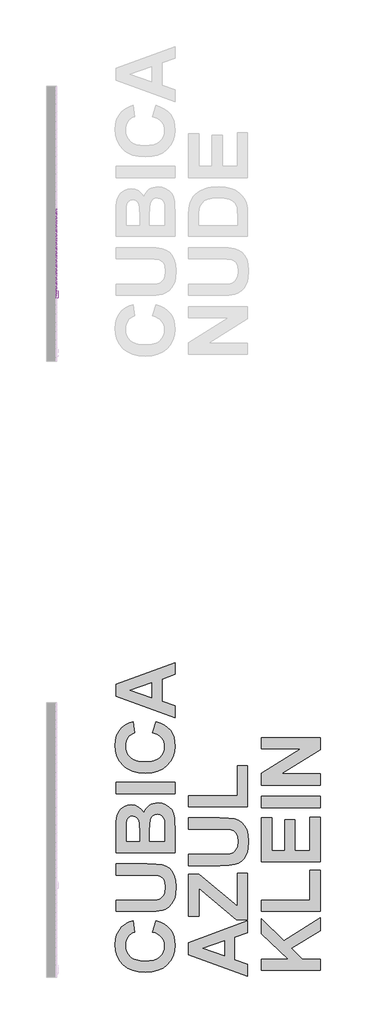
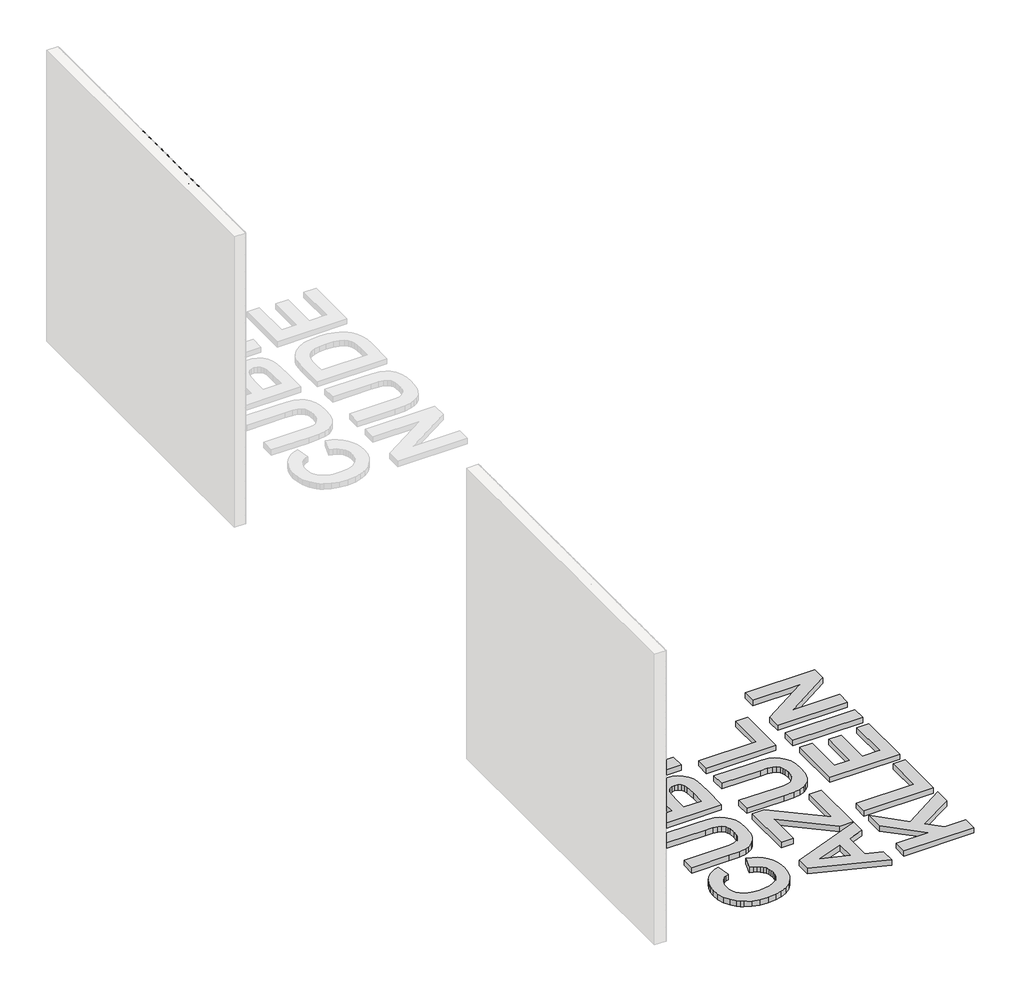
# One storey, part 62 of 121: 12 proxies.
"""IFC4 building model written with IfcOpenShell, lengths in millimetres."""

import ifcopenshell
import ifcopenshell.guid

model = None  # the IFC model being written
_history = None  # IfcOwnerHistory: only IFC2X3 demands one
_inside = {}  # id of a spatial element -> (the spatial element, [elements in it])
_under = {}  # id of a project, library or spatial element -> (it, [spatial elements below it])
_declared = {}  # id of a project -> (the project, [libraries it declares])
_typed = {}  # id of a type object -> (the type object, [elements of that type])
_made_of = {}  # id of a material, layer set ... -> (it, [elements and type objects made of it])


def new_model(schema):
    """Start an empty IFC model of exactly this schema.

    Asked for "IFC4X3", IfcOpenShell would pick the latest addendum, in which some entities
    have other attributes; the version numbers below select the first issue.
    IFC2X3 requires an IfcOwnerHistory on every rooted entity: one is made here for all.
    """
    global model, _history
    if schema == "IFC4X3":
        model = ifcopenshell.file(schema_version=(4, 3, 0, 0))
    else:
        model = ifcopenshell.file(schema=schema)
    _inside.clear()
    _under.clear()
    _declared.clear()
    _typed.clear()
    _made_of.clear()
    _history = None
    if model.schema == "IFC2X3":
        org = make("IfcOrganization", Name="unknown")
        user = make(
            "IfcPersonAndOrganization",
            ThePerson=make("IfcPerson", FamilyName="unknown"),
            TheOrganization=org,
        )
        app = make(
            "IfcApplication",
            ApplicationDeveloper=org,
            Version="unknown",
            ApplicationFullName="unknown",
            ApplicationIdentifier="unknown",
        )
        _history = make(
            "IfcOwnerHistory",
            OwningUser=user,
            OwningApplication=app,
            ChangeAction="ADDED",
            CreationDate=0,
        )
    return model


def make(cls, **values):
    """One entity of the class cls with the attributes given. An attribute that is None is left unset."""
    return model.create_entity(
        cls, **{name: value for name, value in values.items() if value is not None}
    )


def rooted(cls, **values):
    """An entity with a GlobalId (a new one), such as an element, a storey or a relation."""
    return make(cls, GlobalId=ifcopenshell.guid.new(), OwnerHistory=_history, **values)


def si_unit(unit_type, name, prefix=None):
    """IfcSIUnit, for example si_unit("LENGTHUNIT", "METRE", prefix="MILLI")."""
    return make("IfcSIUnit", UnitType=unit_type, Prefix=prefix, Name=name)


def assignment(units):
    """IfcUnitAssignment: the units of a project."""
    return None if units is None else make("IfcUnitAssignment", Units=units)


def point(xyz):
    """IfcCartesianPoint."""
    return None if xyz is None else make("IfcCartesianPoint", Coordinates=xyz)


def direction(xyz):
    """IfcDirection."""
    return None if xyz is None else make("IfcDirection", DirectionRatios=xyz)


def frame(location, z_axis=None, x_axis=None):
    """IfcAxis2Placement3D, a coordinate frame: its origin and axes. An axis left out is left unset."""
    return make(
        "IfcAxis2Placement3D",
        Location=point(location),
        Axis=direction(z_axis),
        RefDirection=direction(x_axis),
    )


def origin():
    """The frame at (0, 0, 0) with its axes left unset."""
    return frame((0.0, 0.0, 0.0))


def origin_with_axes():
    """The frame at (0, 0, 0) with the z axis (0, 0, 1) and the x axis (1, 0, 0) written out."""
    return frame((0.0, 0.0, 0.0), z_axis=(0.0, 0.0, 1.0), x_axis=(1.0, 0.0, 0.0))


def place(relative_to, where):
    """IfcLocalPlacement: puts the frame where relative to a parent placement (None: the world)."""
    return make(
        "IfcLocalPlacement", PlacementRelTo=relative_to, RelativePlacement=where
    )


def context(
    kind, dimensions, precision=None, world=None, true_north=None, identifier=None
):
    """IfcGeometricRepresentationContext, for example the 3D "Model" context."""
    return make(
        "IfcGeometricRepresentationContext",
        ContextIdentifier=identifier,
        ContextType=kind,
        CoordinateSpaceDimension=dimensions,
        Precision=precision,
        WorldCoordinateSystem=world,
        TrueNorth=true_north,
    )


def project(units=None, contexts=None):
    """IfcProject with its units and contexts."""
    return rooted(
        "IfcProject",
        Name="project",
        RepresentationContexts=contexts,
        UnitsInContext=assignment(units),
    )


def spatial(cls, under=None, at=None, **own):
    """A site, building, storey or space (cls), placed at a placement, below another one or the project."""
    s = rooted(cls, ObjectPlacement=at, **own)
    if under is not None:
        _under.setdefault(under.id(), (under, []))[1].append(s)
    return s


def polyline(points):
    """IfcPolyline through the points."""
    return make("IfcPolyline", Points=[point(p) for p in points])


def outline(outer, holes=None, kind="AREA"):
    """IfcArbitraryClosedProfileDef: a profile drawn as a closed curve; with holes, ...WithVoids."""
    if holes is None:
        return make("IfcArbitraryClosedProfileDef", ProfileType=kind, OuterCurve=outer)
    return make(
        "IfcArbitraryProfileDefWithVoids",
        ProfileType=kind,
        OuterCurve=outer,
        InnerCurves=holes,
    )


def extrude(swept, where, along, depth):
    """IfcExtrudedAreaSolid: the profile swept, set in the frame where, extruded along a direction by depth."""
    return make(
        "IfcExtrudedAreaSolid",
        SweptArea=swept,
        Position=where,
        ExtrudedDirection=direction(along),
        Depth=depth,
    )


def shape(context_of_items, identifier, shape_type, items):
    """IfcShapeRepresentation: the items that make up one representation, for example the "Body"."""
    return make(
        "IfcShapeRepresentation",
        ContextOfItems=context_of_items,
        RepresentationIdentifier=identifier,
        RepresentationType=shape_type,
        Items=items,
    )


def source(mapping_origin, context_of_items, identifier, shape_type, items):
    """IfcRepresentationMap: a shape defined once, which mapped items show again and again."""
    return make(
        "IfcRepresentationMap",
        MappingOrigin=mapping_origin,
        MappedRepresentation=shape(context_of_items, identifier, shape_type, items),
    )


def transform(
    local_origin,
    x_axis=None,
    y_axis=None,
    z_axis=None,
    scale=None,
    scale2=None,
    scale3=None,
    uniform=True,
):
    """IfcCartesianTransformationOperator3D, or its non-uniform kind. x_axis, y_axis, z_axis: its Axis1, 2, 3."""
    if uniform:
        return make(
            "IfcCartesianTransformationOperator3D",
            Axis1=direction(x_axis),
            Axis2=direction(y_axis),
            LocalOrigin=point(local_origin),
            Scale=scale,
            Axis3=direction(z_axis),
        )
    return make(
        "IfcCartesianTransformationOperator3DnonUniform",
        Axis1=direction(x_axis),
        Axis2=direction(y_axis),
        LocalOrigin=point(local_origin),
        Scale=scale,
        Axis3=direction(z_axis),
        Scale2=scale2,
        Scale3=scale3,
    )


def mapped(mapping_source, mapping_target):
    """IfcMappedItem: shows the shape of a source again, moved by a transform."""
    return make(
        "IfcMappedItem", MappingSource=mapping_source, MappingTarget=mapping_target
    )


def made_of(thing, what):
    """Note that an element or type object is made of a material, layer set ...; save() writes the relation."""
    if what is not None:
        _made_of.setdefault(what.id(), (what, []))[1].append(thing)
    return thing


def element(
    cls,
    number,
    at=None,
    inside=None,
    cuts=None,
    type_object=None,
    material=None,
    context=None,
    identifier="Body",
    shape_type=None,
    held_by="IfcProductDefinitionShape",
    body=None,
    shapes=None,
    **own,
):
    """One element of the class cls, such as IfcWall. Its Tag is "e" and its number.

    at: its placement. inside: the storey or other place that contains it. cuts: it is an
    opening in that element (IfcRelVoidsElement). A single representation is given by context,
    identifier, shape_type and body (its items); several are given by shapes. held_by: the class
    of the entity that holds the representations. save() writes the other relations.
    """
    e = rooted(cls, Tag="e%d" % number, ObjectPlacement=at, **own)
    if body is not None:
        shapes = [shape(context, identifier, shape_type, body)]
    if shapes is not None:
        e.Representation = make(held_by, Representations=shapes)
    if inside is not None:
        _inside.setdefault(inside.id(), (inside, []))[1].append(e)
    if cuts is not None:
        rooted(
            "IfcRelVoidsElement", RelatingBuildingElement=cuts, RelatedOpeningElement=e
        )
    if type_object is not None:
        _typed.setdefault(type_object.id(), (type_object, []))[1].append(e)
    return made_of(e, material)


def aggregate(whole, parts):
    """IfcRelAggregates: a whole, such as a stair, and the parts it consists of."""
    return rooted("IfcRelAggregates", RelatingObject=whole, RelatedObjects=parts)


def save(model, path):
    """Write the relations noted so far, then the file.

    IfcRelAggregates (storeys below a building ...), IfcRelContainedInSpatialStructure (elements
    in a storey), IfcRelDefinesByType, IfcRelAssociatesMaterial and IfcRelDeclares: one each for
    every whole, place, type object, material and project.
    """
    for whole, parts in _under.values():
        aggregate(whole, parts)
    for where, things in _inside.values():
        rooted(
            "IfcRelContainedInSpatialStructure",
            RelatedElements=things,
            RelatingStructure=where,
        )
    for kind, things in _typed.values():
        rooted("IfcRelDefinesByType", RelatedObjects=things, RelatingType=kind)
    for what, things in _made_of.values():
        rooted("IfcRelAssociatesMaterial", RelatedObjects=things, RelatingMaterial=what)
    for by, libraries in _declared.values():
        rooted("IfcRelDeclares", RelatingContext=by, RelatedDefinitions=libraries)
    model.write(path)


def generic_models_b652511d(model_context):
    return source(origin(), model_context, "Body", "SweptSolid", [
        extrude(outline(polyline([(45.5692194, 0.0), (0.0, -26.3094011), (-45.5692194, 0.0), (-17.3205081, 16.3094011), (17.3205081, 16.3094011), (45.5692194, 0.0)])), origin_with_axes(), (0.0, 0.0, 1.0), 2.0),
        extrude(outline(polyline([(41.5692194, 0.0), (0.0, -24.0), (-41.5692194, 0.0), (-13.3205081, 16.3094011), (13.3205081, 16.3094011), (41.5692194, 0.0)])), frame((0.0, 0.0, 2.0), z_axis=(0.0, 0.0, 1.0), x_axis=(1.0, 0.0, 0.0)), (0.0, 0.0, 1.0), 2.5),
    ])


model = new_model("IFC4")

# Units and contexts
model_context = context("Model", 3, world=origin())
ifc_project = project(units=[si_unit("LENGTHUNIT", "METRE", prefix="MILLI")], contexts=[model_context])

# Site, building, storey
site = spatial("IfcSite", under=ifc_project)
building = spatial("IfcBuilding", under=site)
storey = spatial("IfcBuildingStorey", under=building, Name="PORTOBELLO - SHOWROOM", Elevation=0.0)

# Proxies
placement = place(None, origin())
generic_models_shape = generic_models_b652511d(model_context)
element("IfcBuildingElementProxy", 1, Name="PBSHOP - CUBICA NUDE 4,8X8,3 : CUBICA NUDE - POSIÇÃO 03", ObjectType="PBSHOP - CUBICA NUDE 4,8X8,3 : CUBICA NUDE - POSIÇÃO 03", at=placement, inside=storey, context=model_context, shape_type="MappedRepresentation", body=[
    mapped(generic_models_shape, transform((150369.5341846, 7100.5542414, 2683.6913419), x_axis=(0.0, 1.0, 0.0), y_axis=(0.0, 0.0, 1.0), z_axis=(1.0, 0.0, 0.0))),
])
element("IfcBuildingElementProxy", 2, Name="PBSHOP - CUBICA NUDE 4,8X8,3 : CUBICA NUDE - POSIÇÃO 03", ObjectType="PBSHOP - CUBICA NUDE 4,8X8,3 : CUBICA NUDE - POSIÇÃO 03", at=placement, inside=storey, context=model_context, shape_type="MappedRepresentation", body=[
    mapped(generic_models_shape, transform((150369.5341846, 7191.3935106, 2683.6913419), x_axis=(0.0, 1.0, 0.0), y_axis=(0.0, 0.0, 1.0), z_axis=(1.0, 0.0, 0.0))),
])
element("IfcBuildingElementProxy", 3, Name="PBSHOP - CUBICA NUDE 4,8X8,3 : CUBICA NUDE - POSIÇÃO 03", ObjectType="PBSHOP - CUBICA NUDE 4,8X8,3 : CUBICA NUDE - POSIÇÃO 03", at=placement, inside=storey, context=model_context, shape_type="MappedRepresentation", body=[
    mapped(generic_models_shape, transform((150369.5341846, 7282.2327799, 2683.6913419), x_axis=(0.0, 1.0, 0.0), y_axis=(0.0, 0.0, 1.0), z_axis=(1.0, 0.0, 0.0))),
])
element("IfcBuildingElementProxy", 4, Name="PBSHOP - CUBICA NUDE 4,8X8,3 : CUBICA NUDE - POSIÇÃO 03", ObjectType="PBSHOP - CUBICA NUDE 4,8X8,3 : CUBICA NUDE - POSIÇÃO 03", at=placement, inside=storey, context=model_context, shape_type="MappedRepresentation", body=[
    mapped(generic_models_shape, transform((150369.5341846, 7373.0720491, 2683.6913419), x_axis=(0.0, 1.0, 0.0), y_axis=(0.0, 0.0, 1.0), z_axis=(1.0, 0.0, 0.0))),
])
element("IfcBuildingElementProxy", 5, Name="PBSHOP - CUBICA NUDE 4,8X8,3 : CUBICA NUDE - POSIÇÃO 03", ObjectType="PBSHOP - CUBICA NUDE 4,8X8,3 : CUBICA NUDE - POSIÇÃO 03", at=placement, inside=storey, context=model_context, shape_type="MappedRepresentation", body=[
    mapped(generic_models_shape, transform((150369.5341846, 7463.9113184, 2683.6913419), x_axis=(0.0, 1.0, 0.0), y_axis=(0.0, 0.0, 1.0), z_axis=(1.0, 0.0, 0.0))),
])
element("IfcBuildingElementProxy", 6, Name="PBSHOP - CUBICA NUDE 4,8X8,3 : CUBICA NUDE - POSIÇÃO 03", ObjectType="PBSHOP - CUBICA NUDE 4,8X8,3 : CUBICA NUDE - POSIÇÃO 03", at=placement, inside=storey, context=model_context, shape_type="MappedRepresentation", body=[
    mapped(generic_models_shape, transform((150369.5341846, 7554.7505876, 2683.6913419), x_axis=(0.0, 1.0, 0.0), y_axis=(0.0, 0.0, 1.0), z_axis=(1.0, 0.0, 0.0))),
])
element("IfcBuildingElementProxy", 7, Name="PBSHOP - CUBICA NUDE 4,8X8,3 : CUBICA NUDE - POSIÇÃO 03", ObjectType="PBSHOP - CUBICA NUDE 4,8X8,3 : CUBICA NUDE - POSIÇÃO 03", at=placement, inside=storey, context=model_context, shape_type="MappedRepresentation", body=[
    mapped(generic_models_shape, transform((150369.5341846, 7645.5898568, 2683.6913419), x_axis=(0.0, 1.0, 0.0), y_axis=(0.0, 0.0, 1.0), z_axis=(1.0, 0.0, 0.0))),
])
element("IfcBuildingElementProxy", 8, Name="PBSHOP - CUBICA NUDE 4,8X8,3 : CUBICA NUDE - POSIÇÃO 03", ObjectType="PBSHOP - CUBICA NUDE 4,8X8,3 : CUBICA NUDE - POSIÇÃO 03", at=placement, inside=storey, context=model_context, shape_type="MappedRepresentation", body=[
    mapped(generic_models_shape, transform((150369.5341846, 7736.4291261, 2683.6913419), x_axis=(0.0, 1.0, 0.0), y_axis=(0.0, 0.0, 1.0), z_axis=(1.0, 0.0, 0.0))),
])
element("IfcBuildingElementProxy", 9, Name="PBSHOP - CUBICA NUDE 4,8X8,3 : CUBICA NUDE - POSIÇÃO 03", ObjectType="PBSHOP - CUBICA NUDE 4,8X8,3 : CUBICA NUDE - POSIÇÃO 03", at=placement, inside=storey, context=model_context, shape_type="MappedRepresentation", body=[
    mapped(generic_models_shape, transform((150369.5341846, 7827.2683953, 2683.6913419), x_axis=(0.0, 1.0, 0.0), y_axis=(0.0, 0.0, 1.0), z_axis=(1.0, 0.0, 0.0))),
])
element("IfcBuildingElementProxy", 10, Name="PBSHOP - CUBICA NUDE 4,8X8,3 : CUBICA NUDE - POSIÇÃO 03", ObjectType="PBSHOP - CUBICA NUDE 4,8X8,3 : CUBICA NUDE - POSIÇÃO 03", at=placement, inside=storey, context=model_context, shape_type="MappedRepresentation", body=[
    mapped(generic_models_shape, transform((150369.5341846, 7918.1076646, 2683.6913419), x_axis=(0.0, 1.0, 0.0), y_axis=(0.0, 0.0, 1.0), z_axis=(1.0, 0.0, 0.0))),
])
element("IfcBuildingElementProxy", 11, Name="10mm Arial Narrow", ObjectType="10mm Arial Narrow", at=placement, inside=storey, context=model_context, shape_type="SweptSolid", body=[
    extrude(outline(polyline([(6854.3688776, 2556.6361316), (6854.3688776, 2660.6037226), (6892.8998354, 2660.6037226), (6908.4340555, 2659.6137968), (6921.061955, 2654.7530073), (6929.2478799, 2644.7014531), (6932.3445708, 2630.5252081), (6930.2536699, 2618.2717036), (6923.980967, 2608.0615074), (6912.2509809, 2601.170101), (6893.7882303, 2598.8729655), (6867.3648265, 2598.8729655), (6867.3648265, 2556.6361316), (6854.3688776, 2556.6361316)]), holes=[polyline([(6867.3648265, 2611.8689143), (6894.5497117, 2611.8689143), (6906.0734632, 2613.0619018), (6913.688277, 2616.6408643), (6917.9335357, 2622.383703), (6919.3486219, 2630.0683193), (6916.0107952, 2640.8305894), (6907.241068, 2646.7193788), (6894.2451191, 2647.6077737), (6867.3648265, 2647.6077737), (6867.3648265, 2611.8689143)])]), frame((150371.5341846, 0.0, 0.0), z_axis=(1.0, 0.0, 0.0), x_axis=(0.0, 1.0, 0.0)), (0.0, 0.0, 1.0), 20.0),
    extrude(outline(polyline([(6945.3405197, 2594.8117314), (6948.1516551, 2613.2205438), (6956.5850614, 2626.1593815), (6967.0046649, 2632.498714), (6979.4802682, 2634.6118249), (6993.1329947, 2632.0386524), (7004.0380427, 2624.3191349), (7011.1864491, 2612.0624575), (7013.5692513, 2595.8778054), (7009.355721, 2572.7541542), (6997.0831794, 2559.6693658), (6979.4802682, 2555.011638), (6965.662554, 2557.575292), (6954.7701974, 2565.2662539), (6947.6979391, 2577.7799313), (6945.3405197, 2594.8117314)]), holes=[polyline([(6958.3364686, 2594.8371141), (6959.8403943, 2583.0753997), (6964.3521715, 2574.6959317), (6971.1420471, 2569.6796731), (6979.4802682, 2568.0075869), (6987.7804152, 2569.6891916), (6994.5575995, 2574.7340057), (6999.0693767, 2583.2245231), (7000.5733024, 2595.2432375), (6999.0598582, 2606.6622854), (6994.5195254, 2614.9275312), (6987.7328226, 2619.9437898), (6979.4802682, 2621.615876), (6971.1420471, 2619.9501355), (6964.3521715, 2614.9529139), (6959.8403943, 2606.5924829), (6958.3364686, 2594.8371141)])]), frame((150371.5341846, 0.0, 0.0), z_axis=(1.0, 0.0, 0.0), x_axis=(0.0, 1.0, 0.0)), (0.0, 0.0, 1.0), 20.0),
    extrude(outline(polyline([(7104.5408934, 2567.4745499), (7106.165387, 2556.2553909), (7096.443808, 2555.011638), (7085.5546243, 2557.1691686), (7080.1227238, 2562.8295135), (7078.5489956, 2577.5768696), (7078.5489956, 2619.9913824), (7068.802034, 2619.9913824), (7068.802034, 2630.6013563), (7068.802034, 2632.9873312), (7078.5489956, 2632.9873312), (7078.5489956, 2651.5420942), (7091.5449445, 2659.1822907), (7091.5449445, 2632.9873312), (7104.5408934, 2632.9873312), (7104.5408934, 2619.9913824), (7091.5449445, 2619.9913824), (7091.5449445, 2577.9576102), (7092.2302777, 2571.2565741), (7094.4512651, 2568.8832905), (7098.8805484, 2568.0075869), (7104.5408934, 2567.4745499)])), frame((150371.5341846, 0.0, 0.0), z_axis=(1.0, 0.0, 0.0), x_axis=(0.0, 1.0, 0.0)), (0.0, 0.0, 1.0), 20.0),
    extrude(outline(polyline([(7028.1896937, 2556.6361316), (7028.1896937, 2632.9873312), (7039.561149, 2632.9873312), (7039.561149, 2621.6920241), (7047.6328516, 2632.0989363), (7055.7553197, 2634.6118249), (7068.802034, 2630.6013563), (7064.4615901, 2618.9506912), (7055.3238136, 2621.615876), (7047.9755182, 2619.052222), (7043.2924078, 2611.9450625), (7041.1856426, 2596.7662003), (7041.1856426, 2556.6361316), (7028.1896937, 2556.6361316)])), frame((150371.5341846, 0.0, 0.0), z_axis=(1.0, 0.0, 0.0), x_axis=(0.0, 1.0, 0.0)), (0.0, 0.0, 1.0), 20.0),
    extrude(outline(polyline([(7114.287855, 2594.8117314), (7117.0989904, 2613.2205438), (7125.5323967, 2626.1593815), (7135.9520003, 2632.498714), (7148.4276035, 2634.6118249), (7162.0803301, 2632.0386524), (7172.985378, 2624.3191349), (7180.1337844, 2612.0624575), (7182.5165866, 2595.8778054), (7178.3030563, 2572.7541542), (7166.0305147, 2559.6693658), (7148.4276035, 2555.011638), (7134.6098893, 2557.575292), (7123.7175328, 2565.2662539), (7116.6452745, 2577.7799313), (7114.287855, 2594.8117314)]), holes=[polyline([(7127.2838039, 2594.8371141), (7128.7877296, 2583.0753997), (7133.2995068, 2574.6959317), (7140.0893824, 2569.6796731), (7148.4276035, 2568.0075869), (7156.7277505, 2569.6891916), (7163.5049348, 2574.7340057), (7168.016712, 2583.2245231), (7169.5206377, 2595.2432375), (7168.0071935, 2606.6622854), (7163.4668608, 2614.9275312), (7156.680158, 2619.9437898), (7148.4276035, 2621.615876), (7140.0893824, 2619.9501355), (7133.2995068, 2614.9529139), (7128.7877296, 2606.5924829), (7127.2838039, 2594.8371141)])]), frame((150371.5341846, 0.0, 0.0), z_axis=(1.0, 0.0, 0.0), x_axis=(0.0, 1.0, 0.0)), (0.0, 0.0, 1.0), 20.0),
    extrude(outline(polyline([(7210.1329779, 2556.6361316), (7197.1370291, 2556.6361316), (7197.1370291, 2660.6037226), (7210.1329779, 2660.6037226), (7210.1329779, 2622.0473821), (7219.2326804, 2631.4707142), (7230.5406789, 2634.6118249), (7243.5620105, 2631.7816524), (7253.6643301, 2623.824172), (7259.8704034, 2611.4500996), (7262.1167734, 2595.9539535), (7259.7910824, 2578.6048694), (7252.8140092, 2565.69776), (7242.5752575, 2557.6831685), (7230.4645308, 2555.011638), (7218.9090508, 2558.4573413), (7210.1329779, 2568.794451), (7210.1329779, 2556.6361316)]), holes=[polyline([(7210.1329779, 2595.3447684), (7213.6865577, 2577.1707462), (7220.4954704, 2570.2983767), (7229.3476914, 2568.0075869), (7236.848283, 2569.6955373), (7243.2574179, 2574.7593884), (7247.6549729, 2583.167412), (7249.1208246, 2594.8878796), (7247.7152568, 2606.7796804), (7243.4985537, 2615.0925188), (7237.2893076, 2619.9850367), (7229.9061111, 2621.615876), (7222.4055195, 2619.9279256), (7215.9963846, 2614.8640744), (7211.5988296, 2606.6083471), (7210.1329779, 2595.3447684)])]), frame((150371.5341846, 0.0, 0.0), z_axis=(1.0, 0.0, 0.0), x_axis=(0.0, 1.0, 0.0)), (0.0, 0.0, 1.0), 20.0),
    extrude(outline(polyline([(7330.1932087, 2579.3790421), (7342.9353305, 2577.7545485), (7338.3442323, 2568.1535375), (7331.0181469, 2560.9765755), (7321.1220618, 2556.5028724), (7308.8209647, 2555.011638), (7293.5723001, 2557.5848105), (7281.8391411, 2565.304328), (7274.3575866, 2577.6688819), (7271.8637351, 2594.1771636), (7274.3829693, 2611.2406922), (7281.940672, 2624.001851), (7293.515189, 2631.9593314), (7308.084866, 2634.6118249), (7322.2008271, 2631.9656771), (7333.48027, 2624.0272337), (7340.8761579, 2611.2914576), (7343.3414539, 2594.2533118), (7343.2653057, 2590.7504974), (7284.859684, 2590.7504974), (7287.1092269, 2581.0225728), (7292.3348928, 2573.8709935), (7299.8767313, 2569.4734385), (7309.0747918, 2568.0075869), (7321.8169136, 2570.7235371), (7330.1932087, 2579.3790421)]), holes=[polyline([(7284.859684, 2603.7464463), (7330.345505, 2603.7464463), (7325.1420489, 2615.5240249), (7317.5653092, 2620.0929132), (7308.0341006, 2621.615876), (7292.0303003, 2616.7550865), (7286.9950047, 2611.0725317), (7284.859684, 2603.7464463)])]), frame((150371.5341846, 0.0, 0.0), z_axis=(1.0, 0.0, 0.0), x_axis=(0.0, 1.0, 0.0)), (0.0, 0.0, 1.0), 20.0),
    extrude(outline(polyline([(150391.5341846, 7369.3333516), (150391.5341846, 7356.3374027), (150371.5341846, 7356.3374027), (150371.5341846, 7369.3333516), (150391.5341846, 7369.3333516)])), frame((0.0, 0.0, 2556.6361316), z_axis=(0.0, 0.0, 1.0), x_axis=(1.0, 0.0, 0.0)), (0.0, 0.0, 1.0), 103.967591),
    extrude(outline(polyline([(150391.5341846, 7401.8232238), (150391.5341846, 7388.8272749), (150371.5341846, 7388.8272749), (150371.5341846, 7401.8232238), (150391.5341846, 7401.8232238)])), frame((0.0, 0.0, 2556.6361316), z_axis=(0.0, 0.0, 1.0), x_axis=(1.0, 0.0, 0.0)), (0.0, 0.0, 1.0), 103.967591),
    extrude(outline(polyline([(7418.0681599, 2594.8117314), (7420.8792953, 2613.2205438), (7429.3127016, 2626.1593815), (7439.7323051, 2632.498714), (7452.2079084, 2634.6118249), (7465.8606349, 2632.0386524), (7476.7656829, 2624.3191349), (7483.9140893, 2612.0624575), (7486.2968915, 2595.8778054), (7482.0833612, 2572.7541542), (7469.8108196, 2559.6693658), (7452.2079084, 2555.011638), (7438.3901942, 2557.575292), (7427.4978376, 2565.2662539), (7420.4255793, 2577.7799313), (7418.0681599, 2594.8117314)]), holes=[polyline([(7431.0641088, 2594.8371141), (7432.5680345, 2583.0753997), (7437.0798117, 2574.6959317), (7443.8696873, 2569.6796731), (7452.2079084, 2568.0075869), (7460.5080554, 2569.6891916), (7467.2852397, 2574.7340057), (7471.7970169, 2583.2245231), (7473.3009426, 2595.2432375), (7471.7874983, 2606.6622854), (7467.2471656, 2614.9275312), (7460.4604628, 2619.9437898), (7452.2079084, 2621.615876), (7443.8696873, 2619.9501355), (7437.0798117, 2614.9529139), (7432.5680345, 2606.5924829), (7431.0641088, 2594.8371141)])]), frame((150371.5341846, 0.0, 0.0), z_axis=(1.0, 0.0, 0.0), x_axis=(0.0, 1.0, 0.0)), (0.0, 0.0, 1.0), 20.0),
])
element("IfcBuildingElementProxy", 12, Name="600mm Arial", ObjectType="600mm Arial", at=placement, inside=storey, context=model_context, shape_type="SweptSolid", body=[
    extrude(outline(polyline([(151372.7036128, 445.034672), (151411.5706376, 561.6357463), (151457.6730399, 545.5328798), (151497.446266, 524.8563058), (151530.890316, 499.6060244), (151558.0051899, 469.7820354), (151578.9616899, 435.5076962), (151593.9306185, 396.906364), (151602.9119757, 353.9780388), (151605.9057614, 306.7227206), (151600.7911798, 248.3367823), (151585.4474349, 195.3975413), (151559.8745268, 147.9049976), (151524.0724554, 105.8591512), (151479.3981505, 71.4519657), (151427.2085421, 46.8754047), (151367.50363, 32.129468), (151300.2834144, 27.2141558), (151229.4004371, 32.1721686), (151166.9057532, 47.046207), (151112.7993628, 71.836271), (151088.8917776, 87.9498126), (151067.0812658, 106.5423606), (151030.7478093, 149.3330951), (151004.7953404, 198.3770935), (150989.223859, 253.6743559), (150984.0333652, 315.2248823), (150988.3129131, 369.0466021), (151001.1515568, 417.5544709), (151022.5492963, 460.7484886), (151052.5061315, 498.6286553), (151074.9097071, 518.3373493), (151101.7351658, 535.4080958), (151132.9825077, 549.8408947), (151168.6517329, 561.6357463), (151188.0852452, 445.034672), (151166.7302064, 437.6854262), (151147.7569114, 427.1763369), (151131.1653605, 413.507404), (151116.9555534, 396.6786275), (151105.5639853, 377.2783267), (151097.4271509, 355.8948208), (151092.5450502, 332.5281097), (151090.9176833, 307.1781935), (151093.873513, 272.529038), (151102.7410019, 241.3054187), (151117.5201501, 213.5073354), (151138.2109576, 189.1347883), (151165.5156118, 169.3074816), (151200.1363003, 155.1451196), (151242.0730229, 146.6477025), (151291.3257798, 143.8152301), (151343.4584541, 146.5623013), (151387.5064836, 154.8035149), (151423.4698683, 168.538871), (151451.3486083, 187.7683694), (151472.2054736, 211.400773), (151487.1032346, 238.3448445), (151496.0418911, 268.6005839), (151499.0214433, 302.1679911), (151497.1188949, 327.1573245), (151491.4112495, 350.3532332), (151481.8985072, 371.7557172), (151468.5806681, 391.3647765), (151451.1730614, 408.7534051), (151429.3910166, 423.4945972), (151403.2345338, 435.5883528), (151372.7036128, 445.034672)])), origin_with_axes(), (0.0, 0.0, 1.0), 50.0),
    extrude(outline(polyline([(150993.7501214, 658.8033082), (150993.7501214, 775.4043824), (151323.9680076, 775.4043824), (151388.7969903, 776.656933), (151425.9939476, 780.4145848), (151443.752648, 786.2313539), (151459.6799676, 795.0276752), (151473.7759064, 806.8035487), (151486.0404643, 821.5589743), (151495.9707235, 839.2939522), (151503.0637657, 860.0084822), (151508.7381995, 910.3761989), (151503.3863924, 960.6869814), (151496.6966335, 980.5332662), (151487.330971, 996.8401466), (151463.4755755, 1020.1262009), (151434.7238457, 1031.8356513), (151393.2188735, 1036.2765125), (151331.1037504, 1037.7567996), (150993.7501214, 1037.7567996), (150993.7501214, 1154.3578739), (151314.8585487, 1154.3578739), (151408.875756, 1151.8148166), (151470.478472, 1144.1856447), (151512.363005, 1129.7243787), (151547.2256635, 1106.6850388), (151575.370096, 1074.7449984), (151597.0999511, 1033.5816309), (151610.991876, 980.8037032), (151615.6225176, 914.0199825), (151610.5743591, 835.7925039), (151604.264161, 804.7349424), (151595.4298836, 779.048166), (151572.2007634, 737.8658204), (151542.8986705, 706.3243189), (151509.7630136, 684.1579688), (151475.0332015, 671.1010777), (151409.9764823, 661.8777505), (151319.8687511, 658.8033082), (150993.7501214, 658.8033082)])), origin_with_axes(), (0.0, 0.0, 1.0), 50.0),
    extrude(outline(polyline([(150993.7501214, 1270.9589481), (150993.7501214, 1522.2281902), (150995.2683646, 1587.3038875), (150999.8230941, 1633.4395013), (151009.2172236, 1668.1693135), (151025.2536669, 1699.0276056), (151047.7995777, 1725.5399267), (151076.7221098, 1747.2318258), (151110.7876906, 1761.6930918), (151148.7627475, 1766.5135138), (151190.1348735, 1760.7631679), (151228.0150402, 1743.51213), (151259.6324539, 1716.3925117), (151282.2163208, 1681.0364242), (151291.7622747, 1704.8538637), (151304.1549344, 1725.7486851), (151319.3943001, 1743.7208885), (151337.4803717, 1758.7704737), (151357.853297, 1770.6602154), (151379.9532239, 1779.1528881), (151403.7801524, 1784.2484917), (151429.3340825, 1785.9470262), (151470.3456257, 1781.0696701), (151510.1805305, 1766.4376017), (151545.4796839, 1743.3603057), (151572.8839728, 1713.1472669), (151591.8430342, 1675.4379026), (151601.8065049, 1629.8716299), (151605.9057614, 1480.1728548), (151605.9057614, 1270.9589481), (150993.7501214, 1270.9589481)]), holes=[polyline([(151100.6344395, 1387.5600224), (151236.6690262, 1387.5600224), (151236.6690262, 1476.5290713), (151234.6953101, 1575.2148763), (151227.5975233, 1606.2819269), (151213.5917302, 1629.9475421), (151193.3611402, 1644.9212152), (151167.5889626, 1649.9124395), (151142.9364894, 1645.6044246), (151123.3321747, 1632.6803797), (151109.6110522, 1611.2921293), (151102.6081556, 1581.5914976), (151100.6344395, 1465.5977206), (151100.6344395, 1387.5600224)]), polyline([(151343.5533443, 1387.5600224), (151499.0214433, 1387.5600224), (151499.0214433, 1510.8413666), (151495.3776597, 1602.2396045), (151487.2360808, 1629.2263766), (151472.2244516, 1650.6715611), (151450.6464208, 1664.6773542), (151422.805637, 1669.3459519), (151398.6655708, 1665.7401244), (151378.4729368, 1654.922642), (151362.7211641, 1637.3110214), (151351.9036816, 1613.3227795), (151345.6409286, 1570.2046739), (151343.5533443, 1495.2034621), (151343.5533443, 1387.5600224)])]), origin_with_axes(), (0.0, 0.0, 1.0), 50.0),
    extrude(outline(polyline([(151605.9057614, 1883.1145881), (150993.7501214, 1883.1145881), (150993.7501214, 1999.7156624), (151605.9057614, 1999.7156624), (151605.9057614, 1883.1145881)])), origin_with_axes(), (0.0, 0.0, 1.0), 50.0),
    extrude(outline(polyline([(151372.7036128, 2514.7037405), (151411.5706376, 2631.3048147), (151457.6730399, 2615.2019483), (151497.446266, 2594.5253743), (151530.890316, 2569.2750929), (151558.0051899, 2539.4511039), (151578.9616899, 2505.1767647), (151593.9306185, 2466.5754325), (151602.9119757, 2423.6471073), (151605.9057614, 2376.3917891), (151600.7911798, 2318.0058508), (151585.4474349, 2265.0666097), (151559.8745268, 2217.5740661), (151524.0724554, 2175.5282197), (151479.3981505, 2141.1210342), (151427.2085421, 2116.5444731), (151367.50363, 2101.7985365), (151300.2834144, 2096.8832243), (151229.4004371, 2101.8412371), (151166.9057532, 2116.7152755), (151112.7993628, 2141.5053395), (151088.8917776, 2157.6188811), (151067.0812658, 2176.2114291), (151030.7478093, 2219.0021635), (151004.7953404, 2268.0461619), (150989.223859, 2323.3434243), (150984.0333652, 2384.8939507), (150988.3129131, 2438.7156706), (151001.1515568, 2487.2235394), (151022.5492963, 2530.4175571), (151052.5061315, 2568.2977238), (151074.9097071, 2588.0064178), (151101.7351658, 2605.0771642), (151132.9825077, 2619.5099632), (151168.6517329, 2631.3048147), (151188.0852452, 2514.7037405), (151166.7302064, 2507.3544947), (151147.7569114, 2496.8454054), (151131.1653605, 2483.1764725), (151116.9555534, 2466.347696), (151105.5639853, 2446.9473952), (151097.4271509, 2425.5638892), (151092.5450502, 2402.1971782), (151090.9176833, 2376.847262), (151093.873513, 2342.1981065), (151102.7410019, 2310.9744871), (151117.5201501, 2283.1764039), (151138.2109576, 2258.8038567), (151165.5156118, 2238.97655), (151200.1363003, 2224.8141881), (151242.0730229, 2216.316771), (151291.3257798, 2213.4842986), (151343.4584541, 2216.2313698), (151387.5064836, 2224.4725834), (151423.4698683, 2238.2079394), (151451.3486083, 2257.4374379), (151472.2054736, 2281.0698415), (151487.1032346, 2308.013913), (151496.0418911, 2338.2696524), (151499.0214433, 2371.8370596), (151497.1188949, 2396.826393), (151491.4112495, 2420.0223017), (151481.8985072, 2441.4247857), (151468.5806681, 2461.0338449), (151451.1730614, 2478.4224736), (151429.3910166, 2493.1636657), (151403.2345338, 2505.2574213), (151372.7036128, 2514.7037405)])), origin_with_axes(), (0.0, 0.0, 1.0), 50.0),
    extrude(outline(polyline([(151605.9057614, 3243.4604547), (151605.9057614, 3120.9382321), (151469.8711747, 3072.9617484), (151469.8711747, 2841.733316), (151605.9057614, 2794.3641296), (151605.9057614, 2670.1718395), (150993.7501214, 2893.6572319), (150993.7501214, 3017.8495219), (151605.9057614, 3243.4604547)]), holes=[polyline([(151362.9868567, 3035.6129668), (151139.5014643, 2956.8161471), (151362.9868567, 2879.0820976), (151362.9868567, 3035.6129668)])]), origin_with_axes(), (0.0, 0.0, 1.0), 50.0),
    extrude(outline(polyline([(152361.3738605, 561.6357463), (152361.3738605, 439.1135237), (152225.3392738, 391.13704), (152225.3392738, 159.9086075), (152361.3738605, 112.5394211), (152361.3738605, -11.652869), (151749.2182205, 211.8325234), (151749.2182205, 336.0248135), (152361.3738605, 561.6357463)]), holes=[polyline([(152118.4549557, 353.7882584), (151894.9695633, 274.9914387), (152118.4549557, 197.2573891), (152118.4549557, 353.7882584)])]), origin_with_axes(), (0.0, 0.0, 1.0), 50.0),
    extrude(outline(polyline([(152361.3738605, 571.3525024), (152244.7727862, 571.3525024), (151856.1025386, 899.4448482), (151856.1025386, 610.2195272), (151749.2182205, 610.2195272), (151749.2182205, 1047.4735558), (151856.1025386, 1047.4735558), (152254.4895424, 711.182697), (152254.4895424, 1057.190312), (152361.3738605, 1057.190312), (152361.3738605, 571.3525024)])), origin_with_axes(), (0.0, 0.0, 1.0), 50.0),
    extrude(outline(polyline([(151749.2182205, 1134.9243615), (151749.2182205, 1251.5254358), (152079.4361066, 1251.5254358), (152144.2650893, 1252.7779864), (152181.4620466, 1256.5356382), (152199.220747, 1262.3524072), (152215.1480666, 1271.1487285), (152229.2440054, 1282.924602), (152241.5085634, 1297.6800277), (152251.4388225, 1315.4150055), (152258.5318648, 1336.1295355), (152264.2062986, 1386.4972522), (152258.8544914, 1436.8080347), (152252.1647325, 1456.6543195), (152242.7990701, 1472.9611999), (152218.9436745, 1496.2472543), (152190.1919448, 1507.9567046), (152148.6869725, 1512.3975658), (152086.5718495, 1513.8778529), (151749.2182205, 1513.8778529), (151749.2182205, 1630.4789272), (152070.3266477, 1630.4789272), (152164.3438551, 1627.9358699), (152225.9465711, 1620.306698), (152267.8311041, 1605.845432), (152302.6937625, 1582.8060921), (152330.838195, 1550.8660517), (152352.5680502, 1509.7026842), (152366.459975, 1456.9247565), (152371.0906166, 1390.1410358), (152366.0424582, 1311.9135572), (152359.73226, 1280.8559957), (152350.8979827, 1255.1692193), (152327.6688624, 1213.9868738), (152298.3667695, 1182.4453722), (152265.2311127, 1160.2790222), (152230.5013005, 1147.222131), (152165.4445813, 1137.9988039), (152075.3368501, 1134.9243615), (151749.2182205, 1134.9243615)])), origin_with_axes(), (0.0, 0.0, 1.0), 50.0),
    extrude(outline(polyline([(152361.3738605, 1747.0800014), (151749.2182205, 1747.0800014), (151749.2182205, 1863.6810757), (152254.4895424, 1863.6810757), (152254.4895424, 2174.6172738), (152361.3738605, 2174.6172738), (152361.3738605, 1747.0800014)])), origin_with_axes(), (0.0, 0.0, 1.0), 50.0),
    extrude(outline(polyline([(153116.8419595, 46.6476682), (152504.6863195, 46.6476682), (152504.6863195, 163.2487425), (152783.7394114, 163.2487425), (152504.6863195, 425.9048082), (152504.6863195, 585.9276367), (152738.4957653, 354.2437313), (153116.8419595, 595.6443929), (153116.8419595, 459.3061576), (152815.1670447, 278.4833979), (152931.6162946, 163.2487425), (153116.8419595, 163.2487425), (153116.8419595, 46.6476682)])), origin_with_axes(), (0.0, 0.0, 1.0), 50.0),
    extrude(outline(polyline([(153116.8419595, 658.8033082), (152504.6863195, 658.8033082), (152504.6863195, 775.4043824), (153009.9576414, 775.4043824), (153009.9576414, 1086.3405805), (153116.8419595, 1086.3405805), (153116.8419595, 658.8033082)])), origin_with_axes(), (0.0, 0.0, 1.0), 50.0),
    extrude(outline(polyline([(153116.8419595, 1173.7913862), (152504.6863195, 1173.7913862), (152504.6863195, 1630.4789272), (152611.5706376, 1630.4789272), (152611.5706376, 1290.3924605), (152747.6052243, 1290.3924605), (152747.6052243, 1611.0454148), (152854.4895424, 1611.0454148), (152854.4895424, 1290.3924605), (153009.9576414, 1290.3924605), (153009.9576414, 1640.1956834), (153116.8419595, 1640.1956834), (153116.8419595, 1173.7913862)])), origin_with_axes(), (0.0, 0.0, 1.0), 50.0),
    extrude(outline(polyline([(153116.8419595, 1737.3632453), (152504.6863195, 1737.3632453), (152504.6863195, 1853.9643195), (153116.8419595, 1853.9643195), (153116.8419595, 1737.3632453)])), origin_with_axes(), (0.0, 0.0, 1.0), 50.0),
    extrude(outline(polyline([(153116.8419595, 1970.5653938), (152504.6863195, 1970.5653938), (152504.6863195, 2092.7839678), (152916.7375117, 2349.5188852), (152504.6863195, 2349.5188852), (152504.6863195, 2466.1199595), (153116.8419595, 2466.1199595), (153116.8419595, 2340.1057777), (152710.8637399, 2087.1664681), (153116.8419595, 2087.1664681), (153116.8419595, 1970.5653938)])), origin_with_axes(), (0.0, 0.0, 1.0), 50.0),
])

save(model, "model.ifc")
